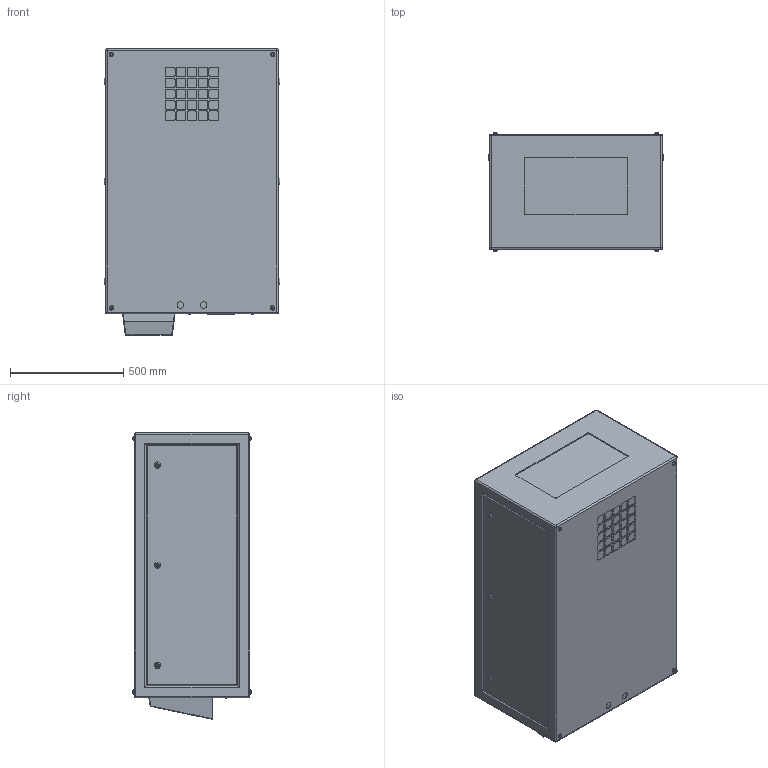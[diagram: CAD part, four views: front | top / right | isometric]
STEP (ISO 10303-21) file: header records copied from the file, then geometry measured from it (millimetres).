
FILE_DESCRIPTION (( 'STEP AP214' ), '1' );
FILE_NAME ('Cyclone 55.204.L R10.STEP', '2022-09-08T18:59:15', ( '' ), ( '' ), 'SwSTEP 2.0', 'SolidWorks 2020', '' );
FILE_SCHEMA (( 'AUTOMOTIVE_DESIGN' ));
Length unit declared in the file: inch
Products named in the file (1): Cyclone 55.204.L R10
Bounding box: 774.7 x 522.6 x 1263.65 mm (x, y, z)
Volume: 185586968.1 mm3; surface area: 6859730.3 mm2
Topology: 1 solids, 8 shells, 591 faces, 1416 edges, 912 vertices
Faces by surface type: plane 295, cylinder 248, torus 40, sphere 8
Entity records: 21234 total; most frequent: CARTESIAN_POINT 3344, DIRECTION 3040, ORIENTED_EDGE 2816, EDGE_CURVE 1408, AXIS2_PLACEMENT_3D 1120, VERTEX_POINT 912, VECTOR 800, LINE 800
